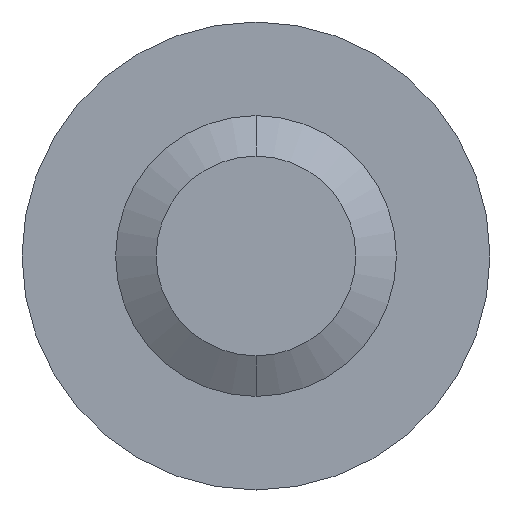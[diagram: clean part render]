
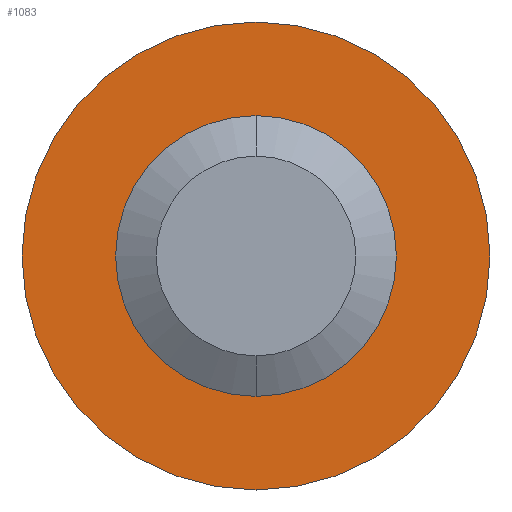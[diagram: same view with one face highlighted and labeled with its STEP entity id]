
A CAD part, front view. The second image highlights one B-rep face of the part: STEP entity #1083.
In plain terms, the highlighted planar face has unit normal (0, -1, 0).
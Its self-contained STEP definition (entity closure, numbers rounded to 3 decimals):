
#50 = FACE_BOUND ( 'NONE', #884, .T. ) ;
#66 = AXIS2_PLACEMENT_3D ( 'NONE', #794, #666, #930 ) ;
#174 = EDGE_CURVE ( 'NONE', #828, #998, #616, .T. ) ;
#180 = CIRCLE ( 'NONE', #1194, 3. ) ;
#205 = DIRECTION ( 'NONE',  ( 0., 0., 1. ) ) ;
#251 = EDGE_CURVE ( 'NONE', #1295, #1343, #180, .T. ) ;
#266 = DIRECTION ( 'NONE',  ( 0., 1., 0. ) ) ;
#290 = EDGE_CURVE ( 'NONE', #998, #828, #931, .T. ) ;
#354 = CARTESIAN_POINT ( 'NONE',  ( 0., 10., 3. ) ) ;
#432 = PLANE ( 'NONE',  #1423 ) ;
#448 = CARTESIAN_POINT ( 'NONE',  ( 0., 10., 5. ) ) ;
#609 = DIRECTION ( 'NONE',  ( 0., 1., 0. ) ) ;
#616 = CIRCLE ( 'NONE', #1560, 5. ) ;
#666 = DIRECTION ( 'NONE',  ( 0., 1., 0. ) ) ;
#730 = AXIS2_PLACEMENT_3D ( 'NONE', #1537, #852, #1407 ) ;
#734 = ORIENTED_EDGE ( 'NONE', *, *, #174, .F. ) ;
#794 = CARTESIAN_POINT ( 'NONE',  ( 0., 10., 0. ) ) ;
#800 = EDGE_CURVE ( 'NONE', #1343, #1295, #1136, .T. ) ;
#828 = VERTEX_POINT ( 'NONE', #448 ) ;
#852 = DIRECTION ( 'NONE',  ( 0., 1., 0. ) ) ;
#861 = CARTESIAN_POINT ( 'NONE',  ( 0., 10., -5. ) ) ;
#884 = EDGE_LOOP ( 'NONE', ( #1332, #1499 ) ) ;
#896 = CARTESIAN_POINT ( 'NONE',  ( 0., 10., 0. ) ) ;
#930 = DIRECTION ( 'NONE',  ( 0., 0., 1. ) ) ;
#931 = CIRCLE ( 'NONE', #66, 5. ) ;
#955 = EDGE_LOOP ( 'NONE', ( #1760, #734 ) ) ;
#998 = VERTEX_POINT ( 'NONE', #861 ) ;
#1083 = ADVANCED_FACE ( 'NONE', ( #1669, #50 ), #432, .F. ) ;
#1129 = DIRECTION ( 'NONE',  ( 0., 0., 1. ) ) ;
#1136 = CIRCLE ( 'NONE', #730, 3. ) ;
#1194 = AXIS2_PLACEMENT_3D ( 'NONE', #1502, #266, #1479 ) ;
#1295 = VERTEX_POINT ( 'NONE', #354 ) ;
#1332 = ORIENTED_EDGE ( 'NONE', *, *, #800, .T. ) ;
#1343 = VERTEX_POINT ( 'NONE', #1466 ) ;
#1407 = DIRECTION ( 'NONE',  ( 0., 0., 1. ) ) ;
#1423 = AXIS2_PLACEMENT_3D ( 'NONE', #1690, #609, #1129 ) ;
#1444 = DIRECTION ( 'NONE',  ( 0., 1., 0. ) ) ;
#1466 = CARTESIAN_POINT ( 'NONE',  ( 0., 10., -3. ) ) ;
#1479 = DIRECTION ( 'NONE',  ( 0., 0., 1. ) ) ;
#1499 = ORIENTED_EDGE ( 'NONE', *, *, #251, .T. ) ;
#1502 = CARTESIAN_POINT ( 'NONE',  ( 0., 10., 0. ) ) ;
#1537 = CARTESIAN_POINT ( 'NONE',  ( 0., 10., 0. ) ) ;
#1560 = AXIS2_PLACEMENT_3D ( 'NONE', #896, #1444, #205 ) ;
#1669 = FACE_OUTER_BOUND ( 'NONE', #955, .T. ) ;
#1690 = CARTESIAN_POINT ( 'NONE',  ( 0., 10., 0. ) ) ;
#1760 = ORIENTED_EDGE ( 'NONE', *, *, #290, .F. ) ;
